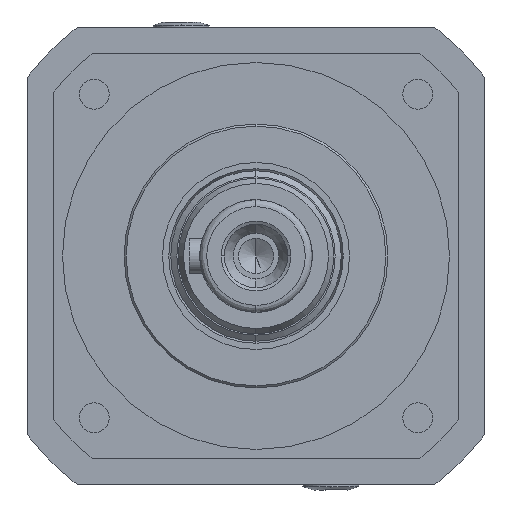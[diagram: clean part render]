
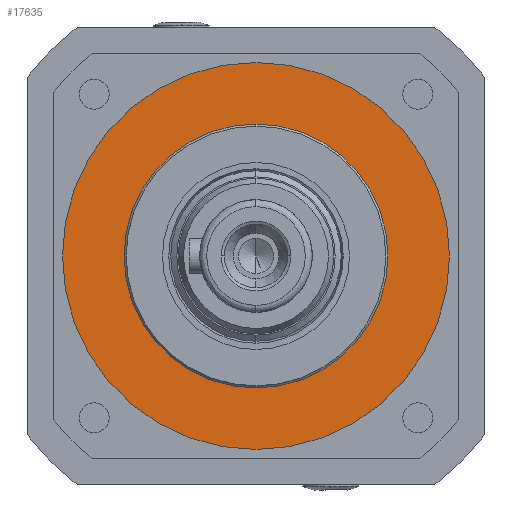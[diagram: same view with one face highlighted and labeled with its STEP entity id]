
A CAD part, left-side view. The second image highlights one B-rep face of the part: STEP entity #17635.
In plain terms, the highlighted planar face has unit normal (-1, 0, 0).
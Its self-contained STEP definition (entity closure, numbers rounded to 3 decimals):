
#434 = CIRCLE ( 'NONE', #3407, 37.5 ) ;
#840 = CIRCLE ( 'NONE', #24214, 55. ) ;
#2227 = ORIENTED_EDGE ( 'NONE', *, *, #5136, .F. ) ;
#3407 = AXIS2_PLACEMENT_3D ( 'NONE', #24618, #27128, #18011 ) ;
#4066 = DIRECTION ( 'NONE',  ( -1., 0., 0. ) ) ;
#4094 = CARTESIAN_POINT ( 'NONE',  ( -67., 0., 0. ) ) ;
#4261 = AXIS2_PLACEMENT_3D ( 'NONE', #21944, #4066, #6332 ) ;
#4654 = FACE_OUTER_BOUND ( 'NONE', #6682, .T. ) ;
#5136 = EDGE_CURVE ( 'NONE', #14150, #29119, #17672, .T. ) ;
#6174 = DIRECTION ( 'NONE',  ( 0., 0., 1. ) ) ;
#6332 = DIRECTION ( 'NONE',  ( 0., 0., 1. ) ) ;
#6682 = EDGE_LOOP ( 'NONE', ( #2227, #18854 ) ) ;
#7018 = CARTESIAN_POINT ( 'NONE',  ( -67., 0., 37.5 ) ) ;
#7037 = AXIS2_PLACEMENT_3D ( 'NONE', #25354, #11844, #14412 ) ;
#7329 = CARTESIAN_POINT ( 'NONE',  ( -67., 0., 0. ) ) ;
#8157 = ORIENTED_EDGE ( 'NONE', *, *, #27073, .F. ) ;
#8390 = CARTESIAN_POINT ( 'NONE',  ( -67., 0., 55. ) ) ;
#10146 = CIRCLE ( 'NONE', #4261, 37.5 ) ;
#10716 = DIRECTION ( 'NONE',  ( 1., 0., 0. ) ) ;
#10978 = ORIENTED_EDGE ( 'NONE', *, *, #15605, .F. ) ;
#11844 = DIRECTION ( 'NONE',  ( 1., 0., 0. ) ) ;
#12028 = PLANE ( 'NONE',  #7037 ) ;
#14150 = VERTEX_POINT ( 'NONE', #8390 ) ;
#14412 = DIRECTION ( 'NONE',  ( 0., 0., -1. ) ) ;
#14546 = VERTEX_POINT ( 'NONE', #21297 ) ;
#14761 = EDGE_CURVE ( 'NONE', #29119, #14150, #840, .T. ) ;
#15605 = EDGE_CURVE ( 'NONE', #15721, #14546, #434, .T. ) ;
#15721 = VERTEX_POINT ( 'NONE', #7018 ) ;
#17635 = ADVANCED_FACE ( 'NONE', ( #19856, #4654 ), #12028, .F. ) ;
#17672 = CIRCLE ( 'NONE', #20327, 55. ) ;
#18011 = DIRECTION ( 'NONE',  ( 0., 0., 1. ) ) ;
#18854 = ORIENTED_EDGE ( 'NONE', *, *, #14761, .F. ) ;
#19856 = FACE_BOUND ( 'NONE', #24249, .T. ) ;
#20327 = AXIS2_PLACEMENT_3D ( 'NONE', #7329, #23293, #23117 ) ;
#21297 = CARTESIAN_POINT ( 'NONE',  ( -67., 0., -37.5 ) ) ;
#21944 = CARTESIAN_POINT ( 'NONE',  ( -67., 0., 0. ) ) ;
#23117 = DIRECTION ( 'NONE',  ( 0., 0., 1. ) ) ;
#23293 = DIRECTION ( 'NONE',  ( 1., 0., 0. ) ) ;
#24214 = AXIS2_PLACEMENT_3D ( 'NONE', #4094, #10716, #6174 ) ;
#24249 = EDGE_LOOP ( 'NONE', ( #10978, #8157 ) ) ;
#24526 = CARTESIAN_POINT ( 'NONE',  ( -67., 0., -55. ) ) ;
#24618 = CARTESIAN_POINT ( 'NONE',  ( -67., 0., 0. ) ) ;
#25354 = CARTESIAN_POINT ( 'NONE',  ( -67., 0., 0. ) ) ;
#27073 = EDGE_CURVE ( 'NONE', #14546, #15721, #10146, .T. ) ;
#27128 = DIRECTION ( 'NONE',  ( -1., 0., 0. ) ) ;
#29119 = VERTEX_POINT ( 'NONE', #24526 ) ;
